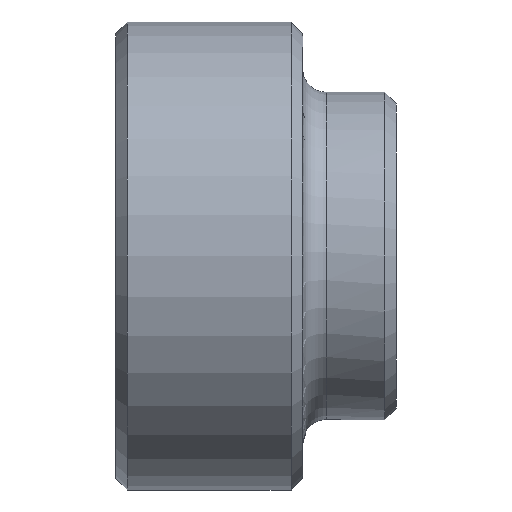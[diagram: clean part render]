
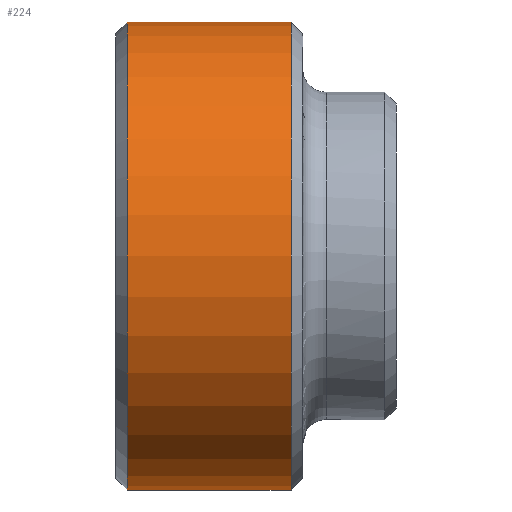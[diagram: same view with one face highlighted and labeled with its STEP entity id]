
A CAD part, front view. The second image highlights one B-rep face of the part: STEP entity #224.
In plain terms, the highlighted cylindrical face has radius 10 mm (diameter 20 mm), a full revolution.
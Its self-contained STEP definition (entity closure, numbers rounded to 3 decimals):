
#224=ADVANCED_FACE('',(#4835,#4837),#4839,.T.);
#4835=FACE_OUTER_BOUND('',#4836,.T.);
#4836=EDGE_LOOP('',(#5508));
#4837=FACE_OUTER_BOUND('',#4838,.T.);
#4838=EDGE_LOOP('',(#5509));
#4839=CYLINDRICAL_SURFACE('',#4840,10.);
#4840=AXIS2_PLACEMENT_3D('',#4841,#4842,#4843);
#4841=CARTESIAN_POINT('',(8.,0.,0.));
#4842=DIRECTION('',(-1.,0.,0.));
#4843=DIRECTION('',(0.,0.,-1.));
#5508=ORIENTED_EDGE('',*,*,#5586,.T.);
#5509=ORIENTED_EDGE('',*,*,#5588,.F.);
#5586=EDGE_CURVE('',#5687,#5687,#5688,.T.);
#5588=EDGE_CURVE('',#5691,#5691,#5692,.T.);
#5687=VERTEX_POINT('',#8000);
#5688=CIRCLE('',#8001,10.);
#5691=VERTEX_POINT('',#8010);
#5692=CIRCLE('',#8011,10.);
#8000=CARTESIAN_POINT('',(7.5,0.,-10.));
#8001=AXIS2_PLACEMENT_3D('',#8002,#8003,#8004);
#8002=CARTESIAN_POINT('',(7.5,0.,0.));
#8003=DIRECTION('',(-1.,0.,0.));
#8004=DIRECTION('',(0.,0.,-1.));
#8010=CARTESIAN_POINT('',(0.5,0.,-10.));
#8011=AXIS2_PLACEMENT_3D('',#8012,#8013,#8014);
#8012=CARTESIAN_POINT('',(0.5,0.,0.));
#8013=DIRECTION('',(-1.,0.,0.));
#8014=DIRECTION('',(0.,0.,-1.));
